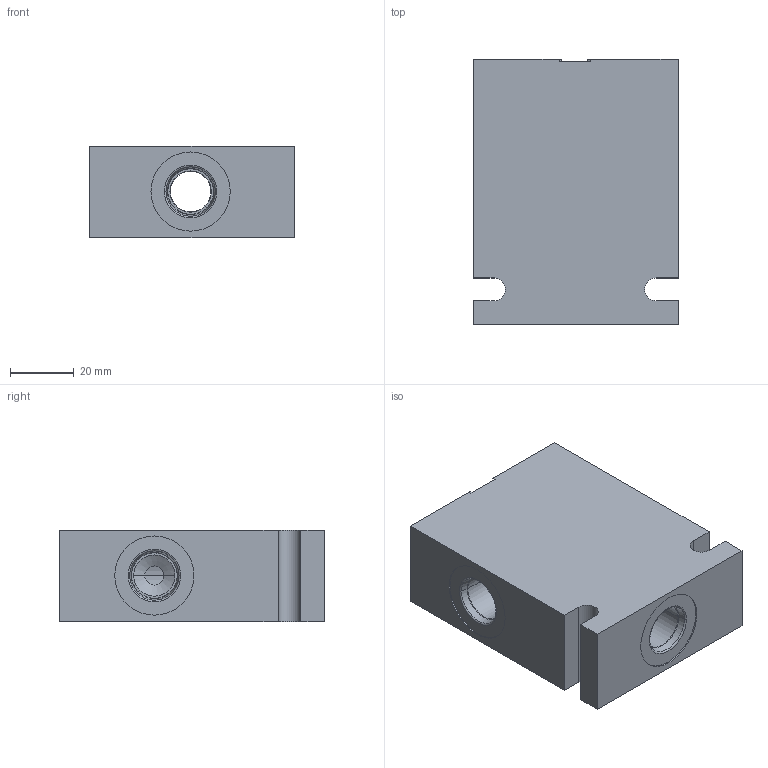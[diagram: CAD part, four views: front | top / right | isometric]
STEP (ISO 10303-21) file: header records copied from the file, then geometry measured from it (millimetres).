
FILE_DESCRIPTION((''),'2;1');
FILE_NAME('7024860','2007-11-12T',('KC2'),(''),'PRO/ENGINEER BY PARAMETRIC TECHNOLOGY CORPORATION, 2005310','PRO/ENGINEER BY PARAMETRIC TECHNOLOGY CORPORATION, 2005310','');
FILE_SCHEMA(('CONFIG_CONTROL_DESIGN'));
Length unit declared in the file: inch
Products named in the file (1): 7024860
Bounding box: 64.11 x 83.16 x 28.83 mm (x, y, z)
Volume: 124704.5 mm3; surface area: 25809.2 mm2
Topology: 1 solids, 1 shells, 109 faces, 241 edges, 140 vertices
Faces by surface type: cylinder 42, cone 28, plane 23, torus 16
Entity records: 3119 total; most frequent: CARTESIAN_POINT 580, DIRECTION 579, ORIENTED_EDGE 482, EDGE_CURVE 241, AXIS2_PLACEMENT_3D 235, VERTEX_POINT 140, CIRCLE 126, EDGE_LOOP 123
